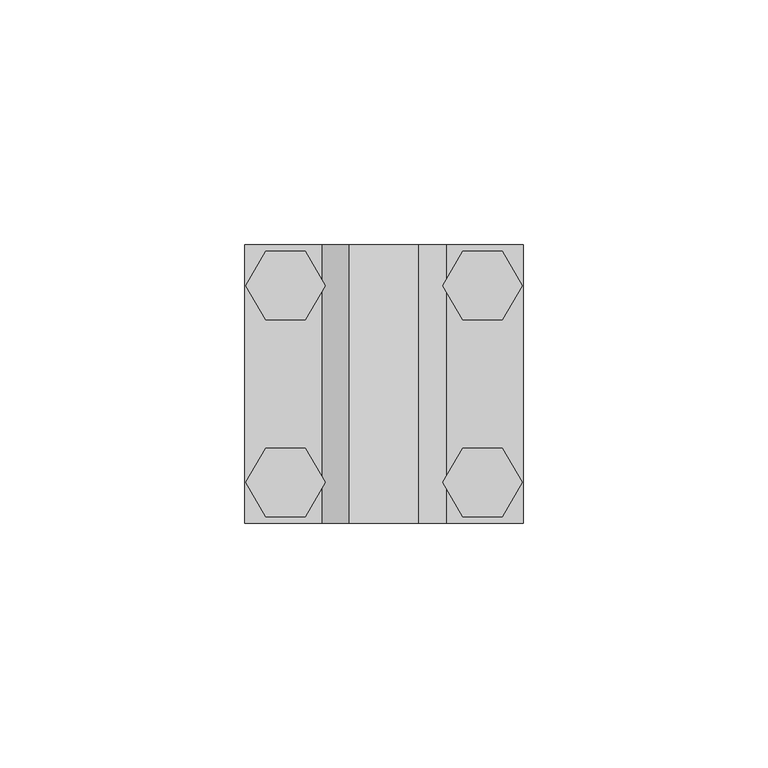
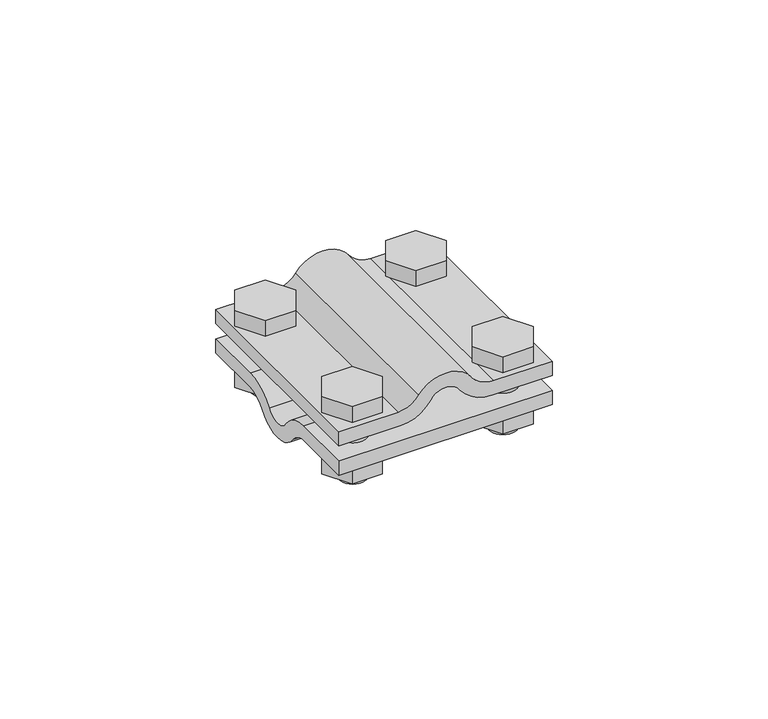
"""IFC4 building model written with IfcOpenShell, lengths in millimetres: proxy geometry, КНС_СоединительПрутокПруток_DKC : Горячеоцинкованная сталь."""

from ifc_helpers import new_model, si_unit, point, frame, frame_2d, origin, place, context, project, spatial, polyline, circle_curve, trimmed, segment, composite_curve, outline, extrude, source, transform, mapped, element, save
from ifc_brep_helpers import plane_surface, cylinder_surface, advanced_brep


def security_devices_afe2594a(model_context):
    return source(origin(), model_context, "Body", "SolidModel", [
        extrude(outline(composite_curve([segment(polyline([(4.0, -12.6812156), (4.0, -28.5), (0.0, -28.5), (0.0, -12.0226128)]), True, "CONTINUOUS"), segment(trimmed(circle_curve(frame_2d((9.5578104, -12.0226128)), 9.5578104), [point((0.0, -12.0226128))], [point((4.4330311, -3.954876))], False, "CARTESIAN"), True, "CONTINUOUS"), segment(trimmed(circle_curve(frame_2d((1.920819, 0.0)), 4.6853232), [point((4.4330311, -3.954876))], [point((4.5644151, 3.8682881))], True, "CARTESIAN"), True, "CONTINUOUS"), segment(trimmed(circle_curve(frame_2d((10.4743481, 12.5161006)), 10.4743481), [point((4.5644151, 3.8682881))], [point((0.0, 12.5161006))], False, "CARTESIAN"), True, "CONTINUOUS"), segment(polyline([(0.0, 12.5161006), (0.0, 28.5), (4.0, 28.5), (4.0, 12.8748131)]), True, "CONTINUOUS"), segment(trimmed(circle_curve(frame_2d((11.1637095, 12.8748131)), 7.1637095), [point((4.0, 12.8748131))], [point((6.9859541, 7.0554409))], True, "CARTESIAN"), True, "CONTINUOUS"), segment(trimmed(circle_curve(frame_2d((1.920819, 0.0)), 8.6853232), [point((6.9859541, 7.0554409))], [point((6.8983492, -7.1175159))], False, "CARTESIAN"), True, "CONTINUOUS"), segment(trimmed(circle_curve(frame_2d((10.789241, -12.6812156)), 6.789241), [point((6.8983492, -7.1175159))], [point((4.0, -12.6812156))], True, "CARTESIAN"), True, "CONTINUOUS")], self_intersect=False)), frame((0.0, -28.5, 0.0), z_axis=(0.0, 1.0, 0.0), x_axis=(0.0, 0.0, 1.0)), (0.0, 0.0, 1.0), 57.0),
        extrude(outline(polyline([(-28.2458472, 20.1251894), (-24.1930385, 27.1448599), (-16.0874212, 27.1448599), (-12.0346126, 20.1251894), (-16.0874212, 13.1055189), (-24.1930385, 13.1055189), (-28.2458472, 20.1251894)])), frame((0.0, 0.0, -13.0687052), z_axis=(0.0, 0.0, 1.0), x_axis=(1.0, 0.0, 0.0)), (0.0, 0.0, 1.0), 4.795819),
        extrude(outline(polyline([(28.2458472, 20.1251894), (24.1930385, 13.1055189), (16.0874212, 13.1055189), (12.0346126, 20.1251894), (16.0874212, 27.1448599), (24.1930385, 27.1448599), (28.2458472, 20.1251894)])), frame((0.0, 0.0, -13.0687052), z_axis=(0.0, 0.0, 1.0), x_axis=(1.0, 0.0, 0.0)), (0.0, 0.0, 1.0), 4.795819),
        extrude(outline(polyline([(-28.2458472, -20.1251894), (-24.1930385, -13.1055189), (-16.0874212, -13.1055189), (-12.0346126, -20.1251894), (-16.0874212, -27.1448599), (-24.1930385, -27.1448599), (-28.2458472, -20.1251894)])), frame((0.0, 0.0, -13.0687052), z_axis=(0.0, 0.0, 1.0), x_axis=(1.0, 0.0, 0.0)), (0.0, 0.0, 1.0), 4.795819),
        extrude(outline(polyline([(28.2458472, -20.1251894), (24.1930385, -27.1448599), (16.0874212, -27.1448599), (12.0346126, -20.1251894), (16.0874212, -13.1055189), (24.1930385, -13.1055189), (28.2458472, -20.1251894)])), frame((0.0, 0.0, -13.0687052), z_axis=(0.0, 0.0, 1.0), x_axis=(1.0, 0.0, 0.0)), (0.0, 0.0, 1.0), 4.795819),
        advanced_brep(
        [(16.3433514, 20.15625, 4.0), (23.9475129, 20.15625, 4.0), (20.1454322, 20.15625, 4.0), (16.3433514, 20.15625, -16.204181), (23.9475129, 20.15625, -16.204181), (20.1454322, 20.15625, -16.204181)],
        [
            (0, 1, circle_curve(frame((20.1454322, 20.15625, 4.0), z_axis=(0.0, 0.0, 1.0), x_axis=(1.0, 0.0, 0.0)), 3.8020807)),
            (1, 2),
            (2, 0),
            (1, 0, circle_curve(frame((20.1454322, 20.15625, 4.0), z_axis=(0.0, 0.0, 1.0), x_axis=(1.0, 0.0, 0.0)), 3.8020807)),
            (3, 4, circle_curve(frame((20.1454322, 20.15625, -16.204181), z_axis=(0.0, 0.0, 1.0), x_axis=(1.0, 0.0, 0.0)), 3.8020807)),
            (4, 1),
            (0, 3),
            (4, 3, circle_curve(frame((20.1454322, 20.15625, -16.204181), z_axis=(0.0, 0.0, 1.0), x_axis=(1.0, 0.0, 0.0)), 3.8020807)),
            (5, 4),
            (3, 5),
        ],
        [
            plane_surface(frame((20.1454322, 20.15625, 4.0), z_axis=(0.0, 0.0, 1.0), x_axis=(1.0, 0.0, 0.0))),
            cylinder_surface(frame((20.1454322, 20.15625, -3.0634893), z_axis=(0.0, 0.0, -1.0), x_axis=(1.0, 0.0, 0.0)), 3.8020807),
            plane_surface(frame((20.1454322, 20.15625, -16.204181), z_axis=(0.0, 0.0, -1.0), x_axis=(1.0, 0.0, 0.0))),
        ],
        [
            (0, [[1, 2, 3]]),
            (0, [[4, -3, -2]]),
            (1, [[5, 6, -1, 7]]),
            (1, [[8, -7, -4, -6]]),
            (2, [[9, -5, 10]]),
            (2, [[-10, -8, -9]]),
        ],
    ),
        advanced_brep(
        [(-20.0282447, 20.15625, 4.0), (-23.7994972, 20.15625, 4.0), (-16.2569922, 20.15625, 4.0), (-23.7994972, 20.15625, -16.204181), (-16.2569922, 20.15625, -16.204181), (-20.0282447, 20.15625, -16.204181)],
        [
            (0, 1),
            (1, 2, circle_curve(frame((-20.0282447, 20.15625, 4.0), z_axis=(0.0, 0.0, 1.0), x_axis=(-1.0, 0.0, 0.0)), 3.7712525)),
            (2, 0),
            (2, 1, circle_curve(frame((-20.0282447, 20.15625, 4.0), z_axis=(0.0, 0.0, 1.0), x_axis=(-1.0, 0.0, 0.0)), 3.7712525)),
            (1, 3),
            (3, 4, circle_curve(frame((-20.0282447, 20.15625, -16.204181), z_axis=(0.0, 0.0, 1.0), x_axis=(-1.0, 0.0, 0.0)), 3.7712525)),
            (4, 2),
            (4, 3, circle_curve(frame((-20.0282447, 20.15625, -16.204181), z_axis=(0.0, 0.0, 1.0), x_axis=(-1.0, 0.0, 0.0)), 3.7712525)),
            (3, 5),
            (5, 4),
        ],
        [
            plane_surface(frame((-20.0282447, 20.15625, 4.0), z_axis=(0.0, 0.0, 1.0), x_axis=(-1.0, 0.0, 0.0))),
            cylinder_surface(frame((-20.0282447, 20.15625, -3.0634893), z_axis=(0.0, 0.0, 1.0), x_axis=(-1.0, 0.0, 0.0)), 3.7712525),
            plane_surface(frame((-20.0282447, 20.15625, -16.204181), z_axis=(0.0, 0.0, -1.0), x_axis=(-1.0, 0.0, 0.0))),
        ],
        [
            (0, [[1, 2, 3]]),
            (0, [[-3, 4, -1]]),
            (1, [[-2, 5, 6, 7]]),
            (1, [[-4, -7, 8, -5]]),
            (2, [[-6, 9, 10]]),
            (2, [[-8, -10, -9]]),
        ],
    ),
        advanced_brep(
        [(20.1454322, -20.15625, 4.0), (23.9475129, -20.15625, 4.0), (16.3433514, -20.15625, 4.0), (23.9475129, -20.15625, -16.204181), (16.3433514, -20.15625, -16.204181), (20.1454322, -20.15625, -16.204181)],
        [
            (0, 1),
            (1, 2, circle_curve(frame((20.1454322, -20.15625, 4.0), z_axis=(0.0, 0.0, 1.0), x_axis=(1.0, 0.0, 0.0)), 3.8020807)),
            (2, 0),
            (2, 1, circle_curve(frame((20.1454322, -20.15625, 4.0), z_axis=(0.0, 0.0, 1.0), x_axis=(1.0, 0.0, 0.0)), 3.8020807)),
            (1, 3),
            (3, 4, circle_curve(frame((20.1454322, -20.15625, -16.204181), z_axis=(0.0, 0.0, 1.0), x_axis=(1.0, 0.0, 0.0)), 3.8020807)),
            (4, 2),
            (4, 3, circle_curve(frame((20.1454322, -20.15625, -16.204181), z_axis=(0.0, 0.0, 1.0), x_axis=(1.0, 0.0, 0.0)), 3.8020807)),
            (3, 5),
            (5, 4),
        ],
        [
            plane_surface(frame((20.1454322, -20.15625, 4.0), z_axis=(0.0, 0.0, 1.0), x_axis=(1.0, 0.0, 0.0))),
            cylinder_surface(frame((20.1454322, -20.15625, -3.0634893), z_axis=(0.0, 0.0, 1.0), x_axis=(1.0, 0.0, 0.0)), 3.8020807),
            plane_surface(frame((20.1454322, -20.15625, -16.204181), z_axis=(0.0, 0.0, -1.0), x_axis=(1.0, 0.0, 0.0))),
        ],
        [
            (0, [[1, 2, 3]]),
            (0, [[-3, 4, -1]]),
            (1, [[-2, 5, 6, 7]]),
            (1, [[-4, -7, 8, -5]]),
            (2, [[-6, 9, 10]]),
            (2, [[-8, -10, -9]]),
        ],
    ),
        advanced_brep(
        [(-16.2569922, -20.15625, 4.0), (-23.7994972, -20.15625, 4.0), (-20.0282447, -20.15625, 4.0), (-16.2569922, -20.15625, -16.204181), (-23.7994972, -20.15625, -16.204181), (-20.0282447, -20.15625, -16.204181)],
        [
            (0, 1, circle_curve(frame((-20.0282447, -20.15625, 4.0), z_axis=(0.0, 0.0, 1.0), x_axis=(-1.0, 0.0, 0.0)), 3.7712525)),
            (1, 2),
            (2, 0),
            (1, 0, circle_curve(frame((-20.0282447, -20.15625, 4.0), z_axis=(0.0, 0.0, 1.0), x_axis=(-1.0, 0.0, 0.0)), 3.7712525)),
            (3, 4, circle_curve(frame((-20.0282447, -20.15625, -16.204181), z_axis=(0.0, 0.0, 1.0), x_axis=(-1.0, 0.0, 0.0)), 3.7712525)),
            (4, 1),
            (0, 3),
            (4, 3, circle_curve(frame((-20.0282447, -20.15625, -16.204181), z_axis=(0.0, 0.0, 1.0), x_axis=(-1.0, 0.0, 0.0)), 3.7712525)),
            (5, 4),
            (3, 5),
        ],
        [
            plane_surface(frame((-20.0282447, -20.15625, 4.0), z_axis=(0.0, 0.0, 1.0), x_axis=(-1.0, 0.0, 0.0))),
            cylinder_surface(frame((-20.0282447, -20.15625, -3.0634893), z_axis=(0.0, 0.0, -1.0), x_axis=(-1.0, 0.0, 0.0)), 3.7712525),
            plane_surface(frame((-20.0282447, -20.15625, -16.204181), z_axis=(0.0, 0.0, -1.0), x_axis=(-1.0, 0.0, 0.0))),
        ],
        [
            (0, [[1, 2, 3]]),
            (0, [[4, -3, -2]]),
            (1, [[5, 6, -1, 7]]),
            (1, [[8, -7, -4, -6]]),
            (2, [[9, -5, 10]]),
            (2, [[-10, -8, -9]]),
        ],
    ),
        extrude(outline(polyline([(-28.2458472, 20.1251894), (-24.1930385, 27.1448599), (-16.0874212, 27.1448599), (-12.0346126, 20.1251894), (-16.0874212, 13.1055189), (-24.1930385, 13.1055189), (-28.2458472, 20.1251894)])), frame((0.0, 0.0, 4.0), z_axis=(0.0, 0.0, 1.0), x_axis=(1.0, 0.0, 0.0)), (0.0, 0.0, 1.0), 4.795819),
        extrude(outline(polyline([(28.2458472, 20.1251894), (24.1930385, 13.1055189), (16.0874212, 13.1055189), (12.0346126, 20.1251894), (16.0874212, 27.1448599), (24.1930385, 27.1448599), (28.2458472, 20.1251894)])), frame((0.0, 0.0, 4.0), z_axis=(0.0, 0.0, 1.0), x_axis=(1.0, 0.0, 0.0)), (0.0, 0.0, 1.0), 4.795819),
        extrude(outline(polyline([(-28.2458472, -20.1251894), (-24.1930385, -13.1055189), (-16.0874212, -13.1055189), (-12.0346126, -20.1251894), (-16.0874212, -27.1448599), (-24.1930385, -27.1448599), (-28.2458472, -20.1251894)])), frame((0.0, 0.0, 4.0), z_axis=(0.0, 0.0, 1.0), x_axis=(1.0, 0.0, 0.0)), (0.0, 0.0, 1.0), 4.795819),
        extrude(outline(polyline([(28.2458472, -20.1251894), (24.1930385, -27.1448599), (16.0874212, -27.1448599), (12.0346126, -20.1251894), (16.0874212, -13.1055189), (24.1930385, -13.1055189), (28.2458472, -20.1251894)])), frame((0.0, 0.0, 4.0), z_axis=(0.0, 0.0, 1.0), x_axis=(1.0, 0.0, 0.0)), (0.0, 0.0, 1.0), 4.795819),
        extrude(outline(composite_curve([segment(polyline([(-12.6812156, -8.2728862), (-28.5, -8.2728862), (-28.5, -4.2728862), (-12.0226128, -4.2728862)]), True, "CONTINUOUS"), segment(trimmed(circle_curve(frame_2d((-12.0226128, -13.8306966)), 9.5578104), [point((-12.0226128, -4.2728862))], [point((-3.954876, -8.7059174))], False, "CARTESIAN"), True, "CONTINUOUS"), segment(trimmed(circle_curve(frame_2d((0.0, -6.1937052)), 4.6853232), [point((-3.954876, -8.7059174))], [point((3.8682881, -8.8373014))], True, "CARTESIAN"), True, "CONTINUOUS"), segment(trimmed(circle_curve(frame_2d((12.5161006, -14.7472343)), 10.4743481), [point((3.8682881, -8.8373014))], [point((12.5161006, -4.2728862))], False, "CARTESIAN"), True, "CONTINUOUS"), segment(polyline([(12.5161006, -4.2728862), (28.5, -4.2728862), (28.5, -8.2728862), (12.8748131, -8.2728862)]), True, "CONTINUOUS"), segment(trimmed(circle_curve(frame_2d((12.8748131, -15.4365957)), 7.1637095), [point((12.8748131, -8.2728862))], [point((7.0554409, -11.2588403))], True, "CARTESIAN"), True, "CONTINUOUS"), segment(trimmed(circle_curve(frame_2d((0.0, -6.1937052)), 8.6853232), [point((7.0554409, -11.2588403))], [point((-7.1175159, -11.1712355))], False, "CARTESIAN"), True, "CONTINUOUS"), segment(trimmed(circle_curve(frame_2d((-12.6812156, -15.0621272)), 6.789241), [point((-7.1175159, -11.1712355))], [point((-12.6812156, -8.2728862))], True, "CARTESIAN"), True, "CONTINUOUS")], self_intersect=False)), frame((-28.5, 0.0, 0.0), z_axis=(1.0, 0.0, 0.0), x_axis=(0.0, 1.0, 0.0)), (0.0, 0.0, 1.0), 57.0),
    ])


if __name__ == "__main__":
    model = new_model("IFC4")
    model_context = context("Model", 3, world=origin())
    ifc_project = project(units=[si_unit("LENGTHUNIT", "METRE", prefix="MILLI")], contexts=[model_context])
    site = spatial("IfcSite", under=ifc_project)
    building = spatial("IfcBuilding", under=site)
    placement = place(None, origin())
    security_devices_shape = security_devices_afe2594a(model_context)
    element("IfcBuildingElementProxy", 1, Name="КНС_СоединительПрутокПруток_DKC : Горячеоцинкованная сталь", ObjectType="КНС_СоединительПрутокПруток_DKC : Горячеоцинкованная сталь", at=placement, inside=building, context=model_context, shape_type="MappedRepresentation", body=[
        mapped(security_devices_shape, transform((0.0, 0.0, 0.0), x_axis=(1.0, 0.0, 0.0), y_axis=(0.0, 1.0, 0.0), z_axis=(0.0, 0.0, 1.0))),
    ])
    save(model, "model.ifc")
